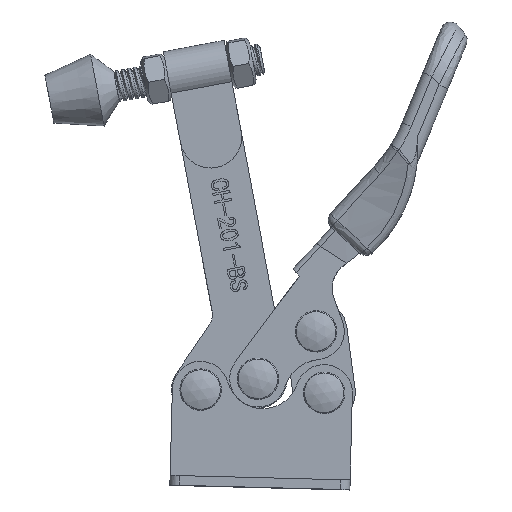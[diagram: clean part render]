
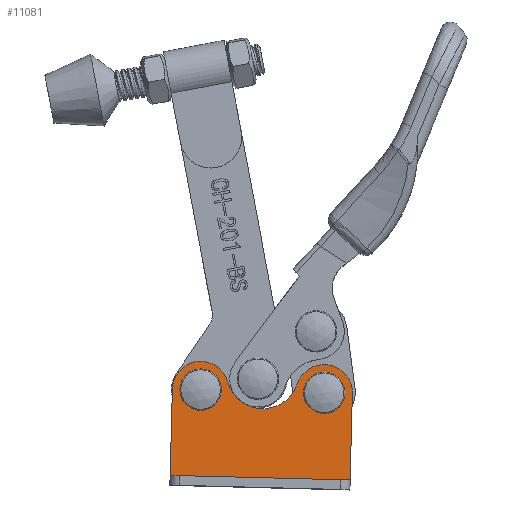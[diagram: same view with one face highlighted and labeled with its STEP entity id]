
A CAD part, top view. The second image highlights one B-rep face of the part: STEP entity #11081.
In plain terms, the highlighted planar face has unit normal (0, 0, 1).
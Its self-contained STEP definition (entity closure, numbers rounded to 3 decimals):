
#487=CIRCLE('',#11860,5.8);
#488=CIRCLE('',#11861,7.485);
#489=CIRCLE('',#11862,5.8);
#490=CIRCLE('',#11863,2.4);
#491=CIRCLE('',#11864,2.4);
#492=CIRCLE('',#11865,2.4);
#493=CIRCLE('',#11866,2.4);
#592=FACE_BOUND('',#2054,.T.);
#593=FACE_BOUND('',#2055,.T.);
#828=PLANE('',#11859);
#1402=FACE_OUTER_BOUND('',#2053,.T.);
#2053=EDGE_LOOP('',(#10130,#10131,#10132,#10133,#10134,#10135));
#2054=EDGE_LOOP('',(#10136,#10137));
#2055=EDGE_LOOP('',(#10138,#10139));
#2901=LINE('',#49180,#3750);
#2911=LINE('',#49214,#3760);
#2912=LINE('',#49221,#3761);
#3750=VECTOR('',#13878,1000.);
#3760=VECTOR('',#13906,1000.);
#3761=VECTOR('',#13913,1000.);
#5333=VERTEX_POINT('',#49178);
#5334=VERTEX_POINT('',#49179);
#5349=VERTEX_POINT('',#49213);
#5350=VERTEX_POINT('',#49215);
#5351=VERTEX_POINT('',#49217);
#5352=VERTEX_POINT('',#49219);
#5353=VERTEX_POINT('',#49222);
#5354=VERTEX_POINT('',#49223);
#5355=VERTEX_POINT('',#49226);
#5356=VERTEX_POINT('',#49227);
#6940=EDGE_CURVE('',#5333,#5334,#2901,.T.);
#6957=EDGE_CURVE('',#5333,#5349,#2911,.T.);
#6958=EDGE_CURVE('',#5349,#5350,#487,.T.);
#6959=EDGE_CURVE('',#5350,#5351,#488,.T.);
#6960=EDGE_CURVE('',#5351,#5352,#489,.T.);
#6961=EDGE_CURVE('',#5352,#5334,#2912,.T.);
#6962=EDGE_CURVE('',#5353,#5354,#490,.T.);
#6963=EDGE_CURVE('',#5354,#5353,#491,.T.);
#6964=EDGE_CURVE('',#5355,#5356,#492,.T.);
#6965=EDGE_CURVE('',#5356,#5355,#493,.T.);
#10130=ORIENTED_EDGE('',*,*,#6957,.T.);
#10131=ORIENTED_EDGE('',*,*,#6958,.T.);
#10132=ORIENTED_EDGE('',*,*,#6959,.T.);
#10133=ORIENTED_EDGE('',*,*,#6960,.T.);
#10134=ORIENTED_EDGE('',*,*,#6961,.T.);
#10135=ORIENTED_EDGE('',*,*,#6940,.F.);
#10136=ORIENTED_EDGE('',*,*,#6962,.F.);
#10137=ORIENTED_EDGE('',*,*,#6963,.F.);
#10138=ORIENTED_EDGE('',*,*,#6964,.F.);
#10139=ORIENTED_EDGE('',*,*,#6965,.F.);
#11081=ADVANCED_FACE('',(#1402,#592,#593),#828,.F.);
#11859=AXIS2_PLACEMENT_3D('',#49212,#13904,#13905);
#11860=AXIS2_PLACEMENT_3D('',#49216,#13907,#13908);
#11861=AXIS2_PLACEMENT_3D('',#49218,#13909,#13910);
#11862=AXIS2_PLACEMENT_3D('',#49220,#13911,#13912);
#11863=AXIS2_PLACEMENT_3D('',#49224,#13914,#13915);
#11864=AXIS2_PLACEMENT_3D('',#49225,#13916,#13917);
#11865=AXIS2_PLACEMENT_3D('',#49228,#13918,#13919);
#11866=AXIS2_PLACEMENT_3D('',#49229,#13920,#13921);
#13878=DIRECTION('',(-1.,0.,0.));
#13904=DIRECTION('center_axis',(0.,0.,-1.));
#13905=DIRECTION('ref_axis',(1.,0.,0.));
#13906=DIRECTION('',(0.,1.,0.));
#13907=DIRECTION('center_axis',(0.,0.,1.));
#13908=DIRECTION('ref_axis',(1.,0.,0.));
#13909=DIRECTION('center_axis',(0.,0.,-1.));
#13910=DIRECTION('ref_axis',(1.,0.,0.));
#13911=DIRECTION('center_axis',(0.,0.,1.));
#13912=DIRECTION('ref_axis',(1.,0.,0.));
#13913=DIRECTION('',(0.,-1.,0.));
#13914=DIRECTION('center_axis',(0.,0.,1.));
#13915=DIRECTION('ref_axis',(1.,0.,0.));
#13916=DIRECTION('center_axis',(0.,0.,1.));
#13917=DIRECTION('ref_axis',(1.,0.,0.));
#13918=DIRECTION('center_axis',(0.,0.,1.));
#13919=DIRECTION('ref_axis',(1.,0.,0.));
#13920=DIRECTION('center_axis',(0.,0.,1.));
#13921=DIRECTION('ref_axis',(1.,0.,0.));
#49178=CARTESIAN_POINT('',(37.,2.,8.));
#49179=CARTESIAN_POINT('',(0.,2.,8.));
#49180=CARTESIAN_POINT('',(5.8,2.,8.));
#49212=CARTESIAN_POINT('Origin',(5.8,19.8,8.));
#49213=CARTESIAN_POINT('',(37.,19.8,8.));
#49214=CARTESIAN_POINT('',(37.,19.8,8.));
#49215=CARTESIAN_POINT('',(25.656,21.503,8.));
#49216=CARTESIAN_POINT('Origin',(31.2,19.8,8.));
#49217=CARTESIAN_POINT('',(11.344,21.503,8.));
#49218=CARTESIAN_POINT('Origin',(18.5,23.7,8.));
#49219=CARTESIAN_POINT('',(0.,19.8,8.));
#49220=CARTESIAN_POINT('Origin',(5.8,19.8,8.));
#49221=CARTESIAN_POINT('',(0.,0.,8.));
#49222=CARTESIAN_POINT('',(28.8,19.8,8.));
#49223=CARTESIAN_POINT('',(33.6,19.8,8.));
#49224=CARTESIAN_POINT('Origin',(31.2,19.8,8.));
#49225=CARTESIAN_POINT('Origin',(31.2,19.8,8.));
#49226=CARTESIAN_POINT('',(3.4,19.8,8.));
#49227=CARTESIAN_POINT('',(8.2,19.8,8.));
#49228=CARTESIAN_POINT('Origin',(5.8,19.8,8.));
#49229=CARTESIAN_POINT('Origin',(5.8,19.8,8.));
